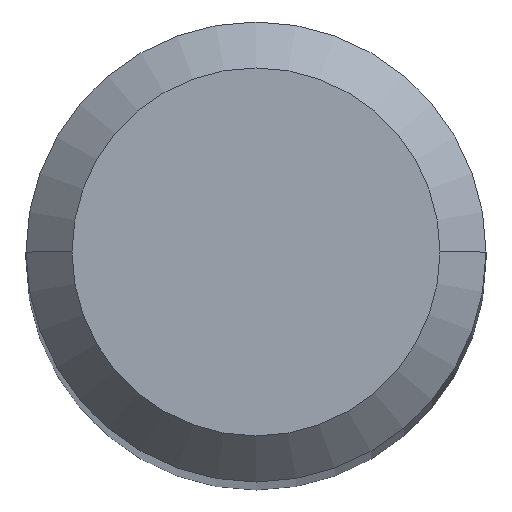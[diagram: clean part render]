
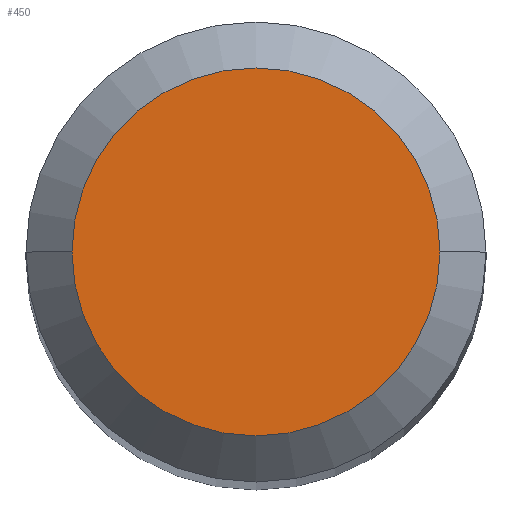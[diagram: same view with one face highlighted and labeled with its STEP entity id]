
A CAD part, top view. The second image highlights one B-rep face of the part: STEP entity #450.
In plain terms, the highlighted planar face has unit normal (0, 0, 1).
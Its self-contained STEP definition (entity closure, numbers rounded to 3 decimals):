
#10 = DIRECTION ( 'NONE',  ( -1., 0., 0. ) ) ;
#46 = DIRECTION ( 'NONE',  ( 0., 0., -1. ) ) ;
#104 = EDGE_CURVE ( 'NONE', #156, #529, #531, .T. ) ;
#114 = AXIS2_PLACEMENT_3D ( 'NONE', #535, #46, #10 ) ;
#130 = CARTESIAN_POINT ( 'NONE',  ( 0., 0., 0. ) ) ;
#138 = CIRCLE ( 'NONE', #114, 1.6 ) ;
#156 = VERTEX_POINT ( 'NONE', #571 ) ;
#194 = DIRECTION ( 'NONE',  ( 0., 0., 1. ) ) ;
#195 = AXIS2_PLACEMENT_3D ( 'NONE', #130, #369, #606 ) ;
#250 = DIRECTION ( 'NONE',  ( 1., 0., 0. ) ) ;
#283 = CARTESIAN_POINT ( 'NONE',  ( 0., 1.6, 0. ) ) ;
#357 = CARTESIAN_POINT ( 'NONE',  ( -1.6, 0., 0. ) ) ;
#361 = EDGE_CURVE ( 'NONE', #529, #156, #138, .T. ) ;
#369 = DIRECTION ( 'NONE',  ( 0., 0., -1. ) ) ;
#450 = ADVANCED_FACE ( 'NONE', ( #489 ), #538, .T. ) ;
#464 = ORIENTED_EDGE ( 'NONE', *, *, #104, .F. ) ;
#489 = FACE_OUTER_BOUND ( 'NONE', #549, .T. ) ;
#523 = AXIS2_PLACEMENT_3D ( 'NONE', #283, #194, #250 ) ;
#529 = VERTEX_POINT ( 'NONE', #357 ) ;
#531 = CIRCLE ( 'NONE', #195, 1.6 ) ;
#535 = CARTESIAN_POINT ( 'NONE',  ( 0., 0., 0. ) ) ;
#538 = PLANE ( 'NONE',  #523 ) ;
#547 = ORIENTED_EDGE ( 'NONE', *, *, #361, .F. ) ;
#549 = EDGE_LOOP ( 'NONE', ( #547, #464 ) ) ;
#571 = CARTESIAN_POINT ( 'NONE',  ( 1.6, 0., 0. ) ) ;
#606 = DIRECTION ( 'NONE',  ( -1., 0., 0. ) ) ;
